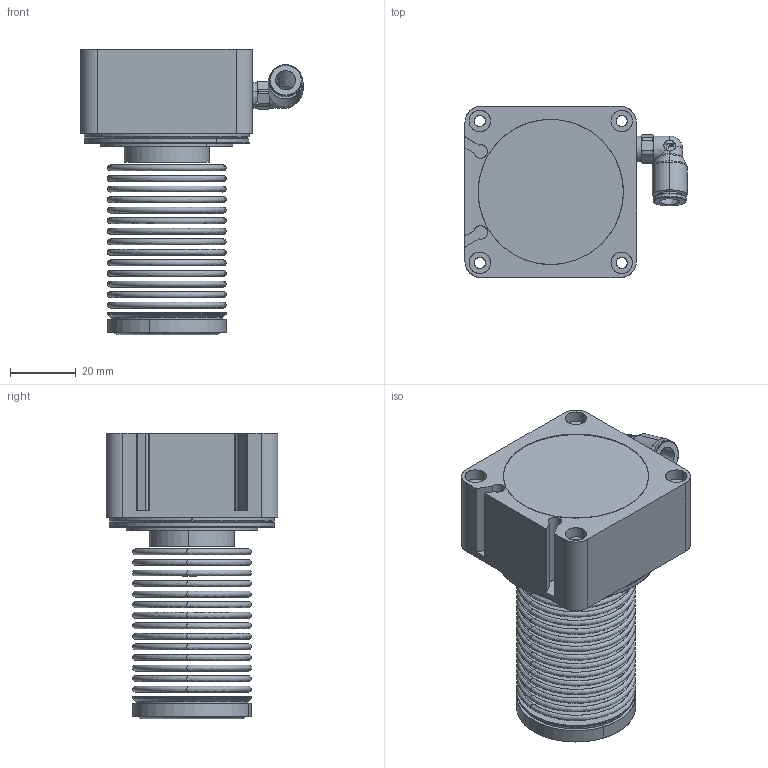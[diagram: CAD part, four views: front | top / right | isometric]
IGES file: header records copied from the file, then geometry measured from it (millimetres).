
Start section: SolidWorks IGES file using analytic representation for surfaces
Global section: file name: F:\1aﾃﾗﾂ蟠ｴﾐﾂ2023-4-14\a1ｵｲｰ蟾ｧKF25 2020-6-23\ﾍ籔ﾃﾊｽ-10\NAC-KF25-ｷｧﾐｾ1.IGS,15; native system: HSolidWorks 2023; preprocessor: SolidWorks 2023; author: Admin; date: 230416.130100; units: millimetre
Bounding box: 67.3 x 52 x 86.6 mm (x, y, z)
Surface area: 34613.8 mm2 (no closed solid volume)
Topology: 0 solids, 0 shells, 244 faces, 6042 edges, 6040 vertices
Faces by surface type: bspline 137, revolution 107
